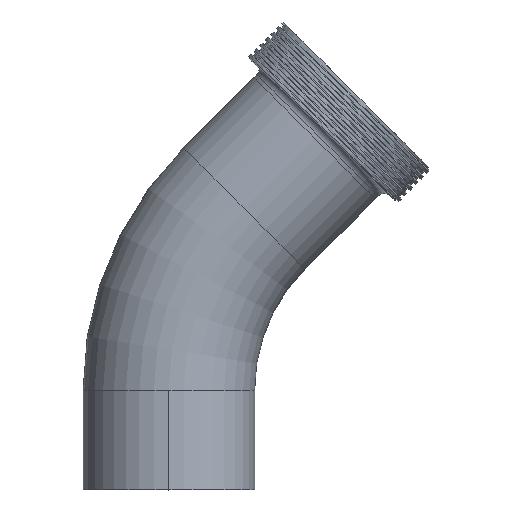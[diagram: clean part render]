
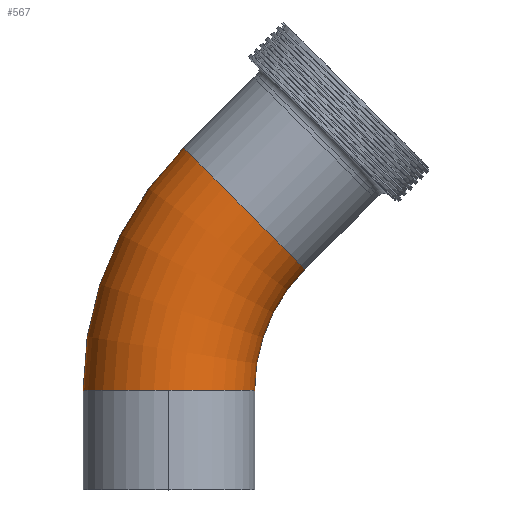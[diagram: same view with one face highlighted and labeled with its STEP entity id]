
A CAD part, top view. The second image highlights one B-rep face of the part: STEP entity #567.
In plain terms, the highlighted toroidal (fillet/blend) face has major radius 95.25 mm and minor radius 31.75 mm.
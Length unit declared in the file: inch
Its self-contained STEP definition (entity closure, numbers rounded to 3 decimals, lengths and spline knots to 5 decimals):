
#96 = AXIS2_PLACEMENT_3D ( 'NONE', #886, #2628, #1136 ) ;
#152 = ORIENTED_EDGE ( 'NONE', *, *, #3003, .T. ) ;
#159 = CARTESIAN_POINT ( 'NONE',  ( 3.75, 1.447, 0. ) ) ;
#185 = AXIS2_PLACEMENT_3D ( 'NONE', #616, #2366, #876 ) ;
#193 = DIRECTION ( 'NONE',  ( 0., 1., 0. ) ) ;
#205 = CIRCLE ( 'NONE', #96, 5. ) ;
#344 = VERTEX_POINT ( 'NONE', #1456 ) ;
#567 = ADVANCED_FACE ( 'NONE', ( #1613 ), #1696, .T. ) ;
#600 = CIRCLE ( 'NONE', #1731, 1.25 ) ;
#616 = CARTESIAN_POINT ( 'NONE',  ( 1.09835, 4.09865, 0. ) ) ;
#646 = CARTESIAN_POINT ( 'NONE',  ( 0.21447, 4.98253, 0. ) ) ;
#667 = CARTESIAN_POINT ( 'NONE',  ( -1.25, 1.447, 0. ) ) ;
#669 = CARTESIAN_POINT ( 'NONE',  ( 3.75, 1.447, 0. ) ) ;
#676 = CIRCLE ( 'NONE', #1969, 1.25 ) ;
#875 = DIRECTION ( 'NONE',  ( 1., 0., 0. ) ) ;
#876 = DIRECTION ( 'NONE',  ( -0.707, 0.707, 0. ) ) ;
#886 = CARTESIAN_POINT ( 'NONE',  ( 3.75, 1.447, 0. ) ) ;
#932 = DIRECTION ( 'NONE',  ( 1., 0., 0. ) ) ;
#1136 = DIRECTION ( 'NONE',  ( 1., 0., 0. ) ) ;
#1227 = EDGE_LOOP ( 'NONE', ( #3001, #152, #2314, #1708, #1401 ) ) ;
#1385 = DIRECTION ( 'NONE',  ( 0., 0., 1. ) ) ;
#1401 = ORIENTED_EDGE ( 'NONE', *, *, #3130, .F. ) ;
#1408 = DIRECTION ( 'NONE',  ( 0., 1., 0. ) ) ;
#1456 = CARTESIAN_POINT ( 'NONE',  ( 1.98223, 3.21477, 0. ) ) ;
#1550 = VERTEX_POINT ( 'NONE', #2990 ) ;
#1613 = FACE_OUTER_BOUND ( 'NONE', #1227, .T. ) ;
#1664 = CARTESIAN_POINT ( 'NONE',  ( 0., 1.447, 0. ) ) ;
#1696 = TOROIDAL_SURFACE ( 'NONE', #2060, 3.75, 1.25 ) ;
#1708 = ORIENTED_EDGE ( 'NONE', *, *, #3067, .T. ) ;
#1731 = AXIS2_PLACEMENT_3D ( 'NONE', #1664, #193, #1921 ) ;
#1921 = DIRECTION ( 'NONE',  ( -1., 0., 0. ) ) ;
#1969 = AXIS2_PLACEMENT_3D ( 'NONE', #2876, #1408, #3122 ) ;
#2060 = AXIS2_PLACEMENT_3D ( 'NONE', #159, #1385, #875 ) ;
#2132 = AXIS2_PLACEMENT_3D ( 'NONE', #669, #2417, #932 ) ;
#2314 = ORIENTED_EDGE ( 'NONE', *, *, #3045, .T. ) ;
#2332 = VERTEX_POINT ( 'NONE', #667 ) ;
#2366 = DIRECTION ( 'NONE',  ( 0.707, 0.707, 0. ) ) ;
#2417 = DIRECTION ( 'NONE',  ( 0., 0., 1. ) ) ;
#2599 = CIRCLE ( 'NONE', #2132, 2.5 ) ;
#2628 = DIRECTION ( 'NONE',  ( 0., 0., 1. ) ) ;
#2721 = VERTEX_POINT ( 'NONE', #3016 ) ;
#2758 = CIRCLE ( 'NONE', #185, 1.25 ) ;
#2876 = CARTESIAN_POINT ( 'NONE',  ( 0., 1.447, 0. ) ) ;
#2945 = EDGE_CURVE ( 'NONE', #3057, #344, #2758, .T. ) ;
#2990 = CARTESIAN_POINT ( 'NONE',  ( 0., 1.447, 1.25 ) ) ;
#3001 = ORIENTED_EDGE ( 'NONE', *, *, #2945, .F. ) ;
#3003 = EDGE_CURVE ( 'NONE', #3057, #2332, #205, .T. ) ;
#3016 = CARTESIAN_POINT ( 'NONE',  ( 1.25, 1.447, 0. ) ) ;
#3045 = EDGE_CURVE ( 'NONE', #2332, #1550, #676, .T. ) ;
#3057 = VERTEX_POINT ( 'NONE', #646 ) ;
#3067 = EDGE_CURVE ( 'NONE', #1550, #2721, #600, .T. ) ;
#3122 = DIRECTION ( 'NONE',  ( -1., 0., 0. ) ) ;
#3130 = EDGE_CURVE ( 'NONE', #344, #2721, #2599, .T. ) ;
